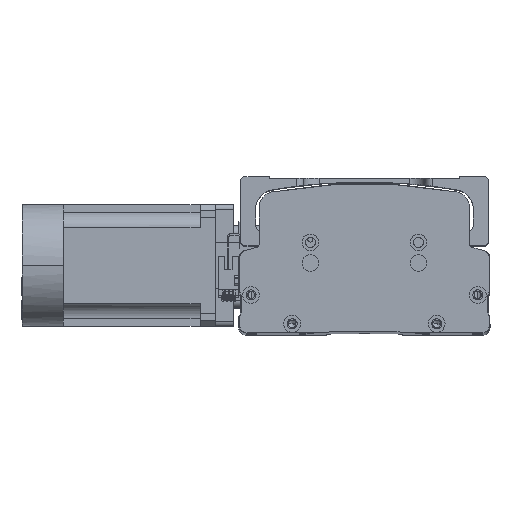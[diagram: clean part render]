
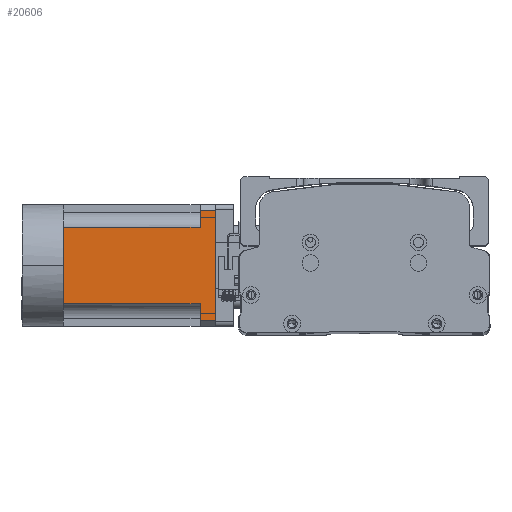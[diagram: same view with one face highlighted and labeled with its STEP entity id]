
A CAD part, top view. The second image highlights one B-rep face of the part: STEP entity #20606.
In plain terms, the highlighted planar face has unit normal (0, -0.003, 1) as drawn and (0, 0, -1) by its records, which use the part's own axes.
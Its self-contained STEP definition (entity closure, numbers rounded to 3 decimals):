
#387 = EDGE_CURVE ( 'NONE', #4414, #9328, #24335, .T. ) ;
#2537 = FACE_OUTER_BOUND ( 'NONE', #13629, .T. ) ;
#2860 = VERTEX_POINT ( 'NONE', #45533 ) ;
#2960 = DIRECTION ( 'NONE',  ( 0., 1., 0. ) ) ;
#4414 = VERTEX_POINT ( 'NONE', #22300 ) ;
#4897 = VECTOR ( 'NONE', #2960, 1000. ) ;
#5357 = PLANE ( 'NONE',  #36331 ) ;
#6897 = LINE ( 'NONE', #7250, #43513 ) ;
#6934 = CARTESIAN_POINT ( 'NONE',  ( -36., -27., -40. ) ) ;
#7250 = CARTESIAN_POINT ( 'NONE',  ( -25., -27., -40. ) ) ;
#9065 = DIRECTION ( 'NONE',  ( -1., 0., 0. ) ) ;
#9328 = VERTEX_POINT ( 'NONE', #20518 ) ;
#9561 = VECTOR ( 'NONE', #43248, 1000. ) ;
#9731 = LINE ( 'NONE', #44804, #36640 ) ;
#9798 = VERTEX_POINT ( 'NONE', #41327 ) ;
#10923 = DIRECTION ( 'NONE',  ( 0., 1., 0. ) ) ;
#11656 = EDGE_CURVE ( 'NONE', #40498, #9328, #40417, .T. ) ;
#12557 = CARTESIAN_POINT ( 'NONE',  ( -40., -27., -40. ) ) ;
#13172 = DIRECTION ( 'NONE',  ( -1., 0., 0. ) ) ;
#13629 = EDGE_LOOP ( 'NONE', ( #27397, #26180, #20008, #18958, #45319, #38556, #20176, #29635, #33114 ) ) ;
#13692 = VECTOR ( 'NONE', #37930, 1000. ) ;
#15957 = LINE ( 'NONE', #46812, #26835 ) ;
#16197 = VERTEX_POINT ( 'NONE', #17328 ) ;
#17328 = CARTESIAN_POINT ( 'NONE',  ( -25., 0., -40. ) ) ;
#17588 = DIRECTION ( 'NONE',  ( -1., 0., 0. ) ) ;
#18958 = ORIENTED_EDGE ( 'NONE', *, *, #40189, .T. ) ;
#20008 = ORIENTED_EDGE ( 'NONE', *, *, #36182, .T. ) ;
#20176 = ORIENTED_EDGE ( 'NONE', *, *, #35908, .T. ) ;
#20518 = CARTESIAN_POINT ( 'NONE',  ( -36., 100., -40. ) ) ;
#20606 = ADVANCED_FACE ( 'NONE', ( #2537 ), #5357, .T. ) ;
#20765 = VERTEX_POINT ( 'NONE', #35286 ) ;
#21021 = VECTOR ( 'NONE', #25700, 1000. ) ;
#21142 = DIRECTION ( 'NONE',  ( -1., 0., 0. ) ) ;
#22300 = CARTESIAN_POINT ( 'NONE',  ( -36., 90., -40. ) ) ;
#23411 = LINE ( 'NONE', #45134, #13692 ) ;
#23528 = CARTESIAN_POINT ( 'NONE',  ( 36., 90., -40. ) ) ;
#24335 = LINE ( 'NONE', #6934, #4897 ) ;
#25550 = EDGE_CURVE ( 'NONE', #40498, #32509, #40524, .T. ) ;
#25700 = DIRECTION ( 'NONE',  ( 0., -1., 0. ) ) ;
#26180 = ORIENTED_EDGE ( 'NONE', *, *, #25550, .T. ) ;
#26835 = VECTOR ( 'NONE', #21142, 1000. ) ;
#27271 = VECTOR ( 'NONE', #13172, 1000. ) ;
#27397 = ORIENTED_EDGE ( 'NONE', *, *, #11656, .F. ) ;
#28271 = CARTESIAN_POINT ( 'NONE',  ( 36., 100., -40. ) ) ;
#28983 = LINE ( 'NONE', #39535, #9561 ) ;
#29635 = ORIENTED_EDGE ( 'NONE', *, *, #37500, .T. ) ;
#29882 = VERTEX_POINT ( 'NONE', #31942 ) ;
#30195 = DIRECTION ( 'NONE',  ( 0., -1., 0. ) ) ;
#30941 = DIRECTION ( 'NONE',  ( 0., 0., -1. ) ) ;
#31942 = CARTESIAN_POINT ( 'NONE',  ( 25., 90., -40. ) ) ;
#32509 = VERTEX_POINT ( 'NONE', #23528 ) ;
#33062 = CARTESIAN_POINT ( 'NONE',  ( 36., -27., -40. ) ) ;
#33114 = ORIENTED_EDGE ( 'NONE', *, *, #387, .T. ) ;
#35286 = CARTESIAN_POINT ( 'NONE',  ( 25., 0., -40. ) ) ;
#35908 = EDGE_CURVE ( 'NONE', #16197, #2860, #6897, .T. ) ;
#36182 = EDGE_CURVE ( 'NONE', #32509, #29882, #23411, .T. ) ;
#36331 = AXIS2_PLACEMENT_3D ( 'NONE', #12557, #30941, #9065 ) ;
#36640 = VECTOR ( 'NONE', #30195, 1000. ) ;
#37058 = LINE ( 'NONE', #38612, #27271 ) ;
#37500 = EDGE_CURVE ( 'NONE', #2860, #4414, #37058, .T. ) ;
#37930 = DIRECTION ( 'NONE',  ( -1., 0., 0. ) ) ;
#38556 = ORIENTED_EDGE ( 'NONE', *, *, #41620, .T. ) ;
#38612 = CARTESIAN_POINT ( 'NONE',  ( -40., 90., -40. ) ) ;
#39168 = CARTESIAN_POINT ( 'NONE',  ( -40., 100., -40. ) ) ;
#39535 = CARTESIAN_POINT ( 'NONE',  ( -40., 0., -40. ) ) ;
#40189 = EDGE_CURVE ( 'NONE', #29882, #20765, #9731, .T. ) ;
#40417 = LINE ( 'NONE', #39168, #41563 ) ;
#40498 = VERTEX_POINT ( 'NONE', #28271 ) ;
#40524 = LINE ( 'NONE', #33062, #21021 ) ;
#41327 = CARTESIAN_POINT ( 'NONE',  ( 0., 0., -40. ) ) ;
#41563 = VECTOR ( 'NONE', #17588, 1000. ) ;
#41620 = EDGE_CURVE ( 'NONE', #9798, #16197, #28983, .T. ) ;
#43248 = DIRECTION ( 'NONE',  ( -1., 0., 0. ) ) ;
#43513 = VECTOR ( 'NONE', #10923, 1000. ) ;
#44804 = CARTESIAN_POINT ( 'NONE',  ( 25., -27., -40. ) ) ;
#44917 = EDGE_CURVE ( 'NONE', #20765, #9798, #15957, .T. ) ;
#45134 = CARTESIAN_POINT ( 'NONE',  ( -40., 90., -40. ) ) ;
#45319 = ORIENTED_EDGE ( 'NONE', *, *, #44917, .T. ) ;
#45533 = CARTESIAN_POINT ( 'NONE',  ( -25., 90., -40. ) ) ;
#46812 = CARTESIAN_POINT ( 'NONE',  ( -40., 0., -40. ) ) ;
